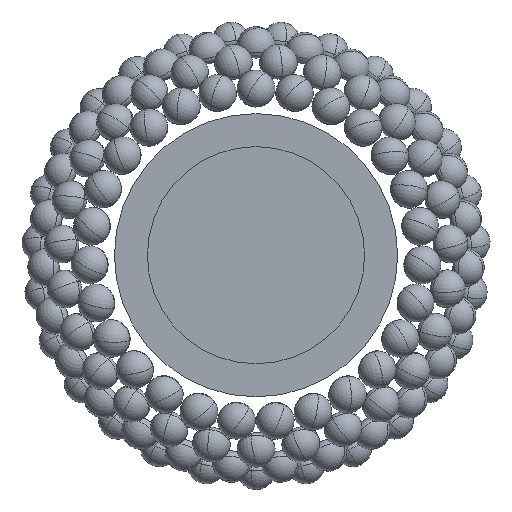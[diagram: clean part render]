
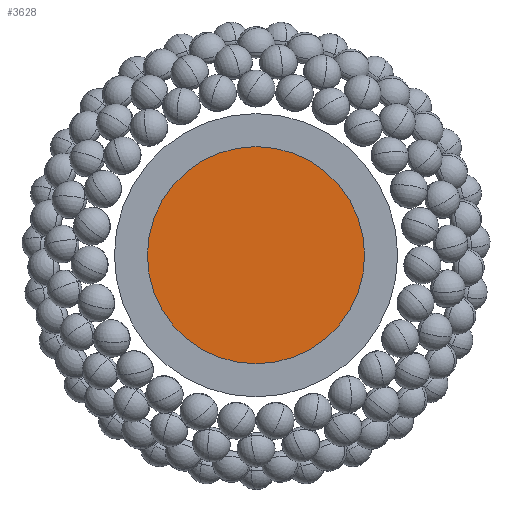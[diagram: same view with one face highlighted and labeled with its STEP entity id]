
A CAD part, front view. The second image highlights one B-rep face of the part: STEP entity #3628.
In plain terms, the highlighted planar face has unit normal (0, -1, 0).
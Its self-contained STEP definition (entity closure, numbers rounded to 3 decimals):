
#93 = CIRCLE ( 'NONE', #52413, 115. ) ;
#3173 = ORIENTED_EDGE ( 'NONE', *, *, #22237, .F. ) ;
#3628 = ADVANCED_FACE ( 'NONE', ( #50769 ), #21053, .F. ) ;
#8631 = CARTESIAN_POINT ( 'NONE',  ( 0., 0., 0. ) ) ;
#9211 = DIRECTION ( 'NONE',  ( 0., 0., 1. ) ) ;
#9721 = DIRECTION ( 'NONE',  ( 0., 1., 0. ) ) ;
#11419 = AXIS2_PLACEMENT_3D ( 'NONE', #52818, #43417, #38527 ) ;
#21053 = PLANE ( 'NONE',  #52829 ) ;
#21259 = EDGE_CURVE ( 'NONE', #50363, #24406, #36545, .T. ) ;
#22237 = EDGE_CURVE ( 'NONE', #24406, #50363, #93, .T. ) ;
#24406 = VERTEX_POINT ( 'NONE', #43691 ) ;
#36545 = CIRCLE ( 'NONE', #11419, 115. ) ;
#37125 = EDGE_LOOP ( 'NONE', ( #47684, #3173 ) ) ;
#38527 = DIRECTION ( 'NONE',  ( 0., 0., 1. ) ) ;
#43417 = DIRECTION ( 'NONE',  ( 0., 1., 0. ) ) ;
#43691 = CARTESIAN_POINT ( 'NONE',  ( 0., 0., -115. ) ) ;
#43851 = CARTESIAN_POINT ( 'NONE',  ( 0., 0., 115. ) ) ;
#47353 = CARTESIAN_POINT ( 'NONE',  ( 0., 0., 0. ) ) ;
#47684 = ORIENTED_EDGE ( 'NONE', *, *, #21259, .F. ) ;
#49889 = DIRECTION ( 'NONE',  ( 0., 1., 0. ) ) ;
#50363 = VERTEX_POINT ( 'NONE', #43851 ) ;
#50769 = FACE_OUTER_BOUND ( 'NONE', #37125, .T. ) ;
#52413 = AXIS2_PLACEMENT_3D ( 'NONE', #47353, #9721, #56402 ) ;
#52818 = CARTESIAN_POINT ( 'NONE',  ( 0., 0., 0. ) ) ;
#52829 = AXIS2_PLACEMENT_3D ( 'NONE', #8631, #49889, #9211 ) ;
#56402 = DIRECTION ( 'NONE',  ( 0., 0., 1. ) ) ;
